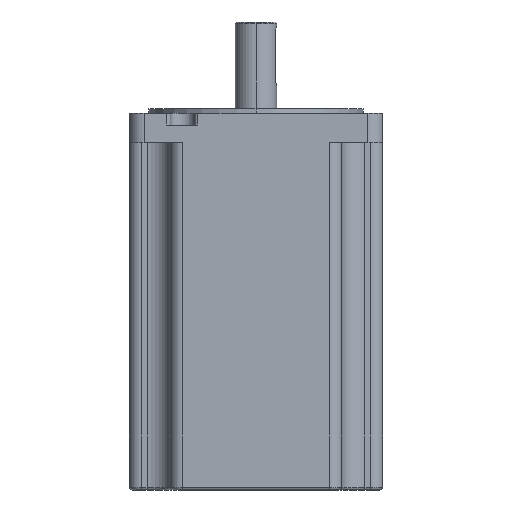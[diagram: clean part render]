
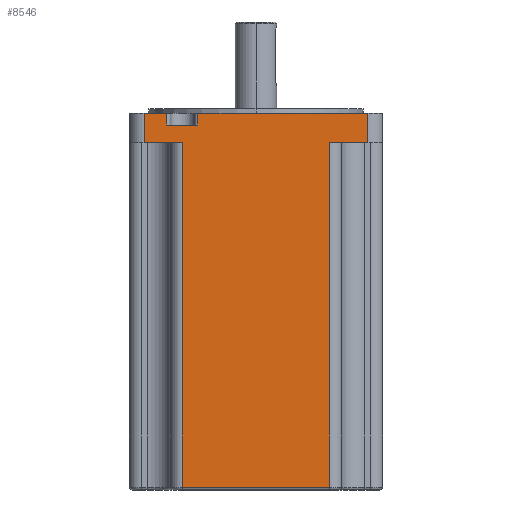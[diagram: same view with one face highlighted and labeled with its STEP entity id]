
A CAD part, left-side view. The second image highlights one B-rep face of the part: STEP entity #8546.
In plain terms, the highlighted planar face has unit normal (-1, 0, 0).
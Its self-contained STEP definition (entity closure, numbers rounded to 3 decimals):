
#858=DIRECTION('',(0.,1.,0.));
#859=VECTOR('',#858,50.);
#860=CARTESIAN_POINT('',(0.,18.,-67.));
#861=LINE('',#860,#859);
#866=DIRECTION('',(0.,1.,0.));
#867=VECTOR('',#866,7.75);
#868=CARTESIAN_POINT('',(0.,73.25,60.));
#869=LINE('',#868,#867);
#870=DIRECTION('',(0.,1.,0.));
#871=VECTOR('',#870,57.75);
#872=CARTESIAN_POINT('',(0.,5.,60.));
#873=LINE('',#872,#871);
#878=DIRECTION('',(0.,0.,1.));
#879=VECTOR('',#878,117.);
#880=CARTESIAN_POINT('',(0.,68.,-67.));
#881=LINE('',#880,#879);
#1080=DIRECTION('',(0.,0.,1.));
#1081=VECTOR('',#1080,10.);
#1082=CARTESIAN_POINT('',(0.,81.,50.));
#1083=LINE('',#1082,#1081);
#1088=DIRECTION('',(0.,1.,0.));
#1089=VECTOR('',#1088,13.);
#1090=CARTESIAN_POINT('',(0.,68.,50.));
#1091=LINE('',#1090,#1089);
#1138=DIRECTION('',(0.,0.,-1.));
#1139=VECTOR('',#1138,4.);
#1140=CARTESIAN_POINT('',(0.,73.25,60.));
#1141=LINE('',#1140,#1139);
#1146=DIRECTION('',(0.,-1.,0.));
#1147=VECTOR('',#1146,10.5);
#1148=CARTESIAN_POINT('',(0.,73.25,56.));
#1149=LINE('',#1148,#1147);
#1191=DIRECTION('',(0.,0.,1.));
#1192=VECTOR('',#1191,4.);
#1193=CARTESIAN_POINT('',(0.,62.75,56.));
#1194=LINE('',#1193,#1192);
#1221=DIRECTION('',(0.,0.,-1.));
#1222=VECTOR('',#1221,10.);
#1223=CARTESIAN_POINT('',(0.,5.,60.));
#1224=LINE('',#1223,#1222);
#1257=DIRECTION('',(0.,0.,-1.));
#1258=VECTOR('',#1257,117.);
#1259=CARTESIAN_POINT('',(0.,18.,50.));
#1260=LINE('',#1259,#1258);
#1284=DIRECTION('',(0.,1.,0.));
#1285=VECTOR('',#1284,13.);
#1286=CARTESIAN_POINT('',(0.,5.,50.));
#1287=LINE('',#1286,#1285);
#6403=CARTESIAN_POINT('',(0.,73.25,56.));
#6404=CARTESIAN_POINT('',(0.,62.75,56.));
#6405=VERTEX_POINT('',#6403);
#6406=VERTEX_POINT('',#6404);
#6471=CARTESIAN_POINT('',(0.,81.,60.));
#6472=VERTEX_POINT('',#6471);
#6473=CARTESIAN_POINT('',(0.,73.25,60.));
#6474=VERTEX_POINT('',#6473);
#6483=CARTESIAN_POINT('',(0.,62.75,60.));
#6484=VERTEX_POINT('',#6483);
#6485=CARTESIAN_POINT('',(0.,5.,60.));
#6486=VERTEX_POINT('',#6485);
#6515=CARTESIAN_POINT('',(0.,68.,50.));
#6516=CARTESIAN_POINT('',(0.,81.,50.));
#6517=VERTEX_POINT('',#6515);
#6518=VERTEX_POINT('',#6516);
#6535=CARTESIAN_POINT('',(0.,68.,-67.));
#6536=VERTEX_POINT('',#6535);
#6537=CARTESIAN_POINT('',(0.,18.,-67.));
#6538=VERTEX_POINT('',#6537);
#6539=CARTESIAN_POINT('',(0.,18.,50.));
#6540=VERTEX_POINT('',#6539);
#6541=CARTESIAN_POINT('',(0.,5.,50.));
#6542=VERTEX_POINT('',#6541);
#8518=CARTESIAN_POINT('',(0.,86.,60.));
#8519=DIRECTION('',(1.,0.,0.));
#8520=DIRECTION('',(0.,1.,0.));
#8521=AXIS2_PLACEMENT_3D('',#8518,#8519,#8520);
#8522=PLANE('',#8521);
#8524=ORIENTED_EDGE('',*,*,#8523,.T.);
#8526=ORIENTED_EDGE('',*,*,#8525,.T.);
#8528=ORIENTED_EDGE('',*,*,#8527,.T.);
#8529=ORIENTED_EDGE('',*,*,#7661,.F.);
#8531=ORIENTED_EDGE('',*,*,#8530,.T.);
#8533=ORIENTED_EDGE('',*,*,#8532,.T.);
#8535=ORIENTED_EDGE('',*,*,#8534,.T.);
#8536=ORIENTED_EDGE('',*,*,#7649,.F.);
#8538=ORIENTED_EDGE('',*,*,#8537,.T.);
#8540=ORIENTED_EDGE('',*,*,#8539,.T.);
#8542=ORIENTED_EDGE('',*,*,#8541,.T.);
#8543=ORIENTED_EDGE('',*,*,#8509,.T.);
#8544=EDGE_LOOP('',(#8524,#8526,#8528,#8529,#8531,#8533,#8535,#8536,#8538,#8540,
#8542,#8543));
#8545=FACE_OUTER_BOUND('',#8544,.F.);
#8546=ADVANCED_FACE('',(#8545),#8522,.F.);
#7649=EDGE_CURVE('',#6486,#6484,#873,.T.);
#7661=EDGE_CURVE('',#6474,#6472,#869,.T.);
#8509=EDGE_CURVE('',#6538,#6536,#861,.T.);
#8523=EDGE_CURVE('',#6536,#6517,#881,.T.);
#8525=EDGE_CURVE('',#6517,#6518,#1091,.T.);
#8527=EDGE_CURVE('',#6518,#6472,#1083,.T.);
#8530=EDGE_CURVE('',#6474,#6405,#1141,.T.);
#8532=EDGE_CURVE('',#6405,#6406,#1149,.T.);
#8534=EDGE_CURVE('',#6406,#6484,#1194,.T.);
#8537=EDGE_CURVE('',#6486,#6542,#1224,.T.);
#8539=EDGE_CURVE('',#6542,#6540,#1287,.T.);
#8541=EDGE_CURVE('',#6540,#6538,#1260,.T.);
